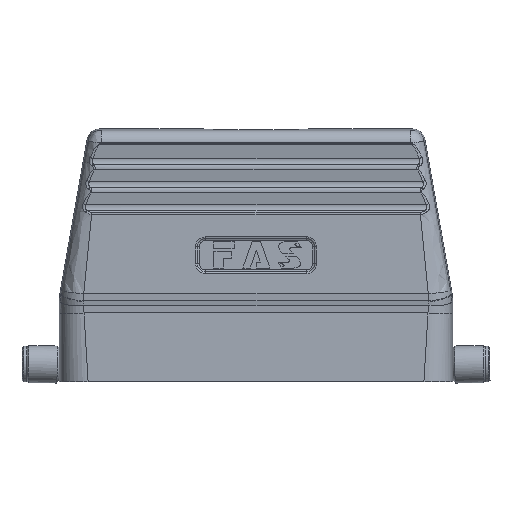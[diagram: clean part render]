
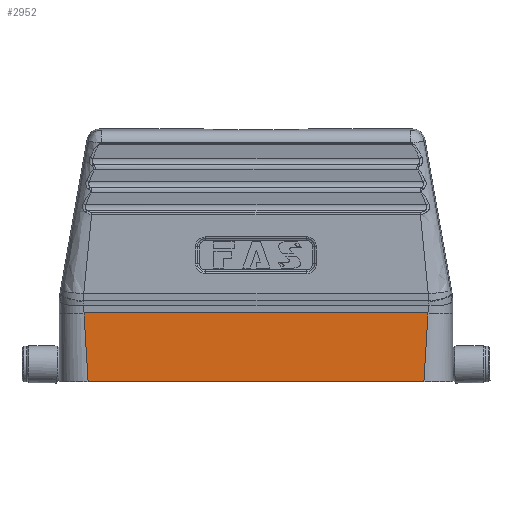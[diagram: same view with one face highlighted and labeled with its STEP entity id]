
A CAD part, front view. The second image highlights one B-rep face of the part: STEP entity #2952.
In plain terms, the highlighted planar face has unit normal (0, -1, 0).
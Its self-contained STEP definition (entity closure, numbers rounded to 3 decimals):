
#410 = EDGE_LOOP ( 'NONE', ( #11961, #11510, #15822, #18694 ) ) ;
#732 = DIRECTION ( 'NONE',  ( 0., -1., 0. ) ) ;
#757 = EDGE_CURVE ( 'NONE', #6247, #10668, #11440, .T. ) ;
#945 = LINE ( 'NONE', #21775, #18964 ) ;
#1133 = CARTESIAN_POINT ( 'NONE',  ( 67.597, 17.399, 69.588 ) ) ;
#1359 = CARTESIAN_POINT ( 'NONE',  ( -13.411, 17.399, 57.422 ) ) ;
#1590 = CARTESIAN_POINT ( 'NONE',  ( -13.708, 17.399, 62.098 ) ) ;
#1751 = CARTESIAN_POINT ( 'NONE',  ( 67.129, 17.399, 60.613 ) ) ;
#1834 = CARTESIAN_POINT ( 'NONE',  ( 67.597, 17.399, 69.588 ) ) ;
#2264 = DIRECTION ( 'NONE',  ( 0., 0., -1. ) ) ;
#2952 = ADVANCED_FACE ( 'NONE', ( #12263 ), #9851, .T. ) ;
#3115 = CARTESIAN_POINT ( 'NONE',  ( 66.764, 17.399, 55.187 ) ) ;
#3119 = CARTESIAN_POINT ( 'NONE',  ( -13.678, 17.399, 61.607 ) ) ;
#3197 = CARTESIAN_POINT ( 'NONE',  ( -13.918, 17.399, 65.796 ) ) ;
#4826 = CARTESIAN_POINT ( 'NONE',  ( -46.498, 17.399, 69.588 ) ) ;
#4935 = CARTESIAN_POINT ( 'NONE',  ( -13.137, 17.399, 53.299 ) ) ;
#4941 = CARTESIAN_POINT ( 'NONE',  ( -13.907, 17.399, 65.594 ) ) ;
#5034 = CARTESIAN_POINT ( 'NONE',  ( -13.409, 17.399, 57.396 ) ) ;
#5258 = CARTESIAN_POINT ( 'NONE',  ( -13.961, 17.399, 66.656 ) ) ;
#5352 = AXIS2_PLACEMENT_3D ( 'NONE', #6003, #732, #2264 ) ;
#6003 = CARTESIAN_POINT ( 'NONE',  ( -46.498, 17.399, 53.299 ) ) ;
#6247 = VERTEX_POINT ( 'NONE', #1133 ) ;
#6938 = CARTESIAN_POINT ( 'NONE',  ( -13.419, 17.399, 57.554 ) ) ;
#7024 = CARTESIAN_POINT ( 'NONE',  ( -13.819, 17.399, 63.96 ) ) ;
#8261 = EDGE_CURVE ( 'NONE', #6247, #18819, #15171, .T. ) ;
#8548 = CARTESIAN_POINT ( 'NONE',  ( -14.094, 17.399, 69.588 ) ) ;
#8778 = CARTESIAN_POINT ( 'NONE',  ( -13.688, 17.399, 61.771 ) ) ;
#9167 = DIRECTION ( 'NONE',  ( 1., 0., 0. ) ) ;
#9851 = PLANE ( 'NONE',  #5352 ) ;
#10503 = CARTESIAN_POINT ( 'NONE',  ( -14.017, 17.399, 67.83 ) ) ;
#10668 = VERTEX_POINT ( 'NONE', #14728 ) ;
#11440 = LINE ( 'NONE', #4826, #20267 ) ;
#11510 = ORIENTED_EDGE ( 'NONE', *, *, #18214, .T. ) ;
#11961 = ORIENTED_EDGE ( 'NONE', *, *, #757, .T. ) ;
#12263 = FACE_OUTER_BOUND ( 'NONE', #410, .T. ) ;
#12334 = CARTESIAN_POINT ( 'NONE',  ( -13.669, 17.399, 61.464 ) ) ;
#12415 = CARTESIAN_POINT ( 'NONE',  ( -13.454, 17.399, 58.094 ) ) ;
#13749 = VERTEX_POINT ( 'NONE', #4935 ) ;
#14097 = CARTESIAN_POINT ( 'NONE',  ( -13.932, 17.399, 66.081 ) ) ;
#14172 = CARTESIAN_POINT ( 'NONE',  ( -13.636, 17.399, 60.932 ) ) ;
#14249 = CARTESIAN_POINT ( 'NONE',  ( -13.673, 17.399, 61.524 ) ) ;
#14324 = CARTESIAN_POINT ( 'NONE',  ( -13.137, 17.399, 53.299 ) ) ;
#14728 = CARTESIAN_POINT ( 'NONE',  ( -14.094, 17.399, 69.588 ) ) ;
#15171 = B_SPLINE_CURVE_WITH_KNOTS ( 'NONE', 3,
 ( #1834, #17670, #1751, #3115, #16395 ),
 .UNSPECIFIED., .F., .F.,
 ( 4, 1, 4 ),
 ( 0., 0.652, 1. ),
 .UNSPECIFIED. ) ;
#15822 = ORIENTED_EDGE ( 'NONE', *, *, #23654, .T. ) ;
#15893 = DIRECTION ( 'NONE',  ( -1., 0., 0. ) ) ;
#15929 = CARTESIAN_POINT ( 'NONE',  ( -13.668, 17.399, 61.453 ) ) ;
#16002 = CARTESIAN_POINT ( 'NONE',  ( -13.905, 17.399, 65.554 ) ) ;
#16395 = CARTESIAN_POINT ( 'NONE',  ( 66.641, 17.399, 53.299 ) ) ;
#17670 = CARTESIAN_POINT ( 'NONE',  ( 67.457, 17.399, 66.043 ) ) ;
#17744 = CARTESIAN_POINT ( 'NONE',  ( -13.499, 17.399, 58.78 ) ) ;
#17823 = CARTESIAN_POINT ( 'NONE',  ( -13.219, 17.399, 54.488 ) ) ;
#17906 = CARTESIAN_POINT ( 'NONE',  ( -13.431, 17.399, 57.736 ) ) ;
#17970 = CARTESIAN_POINT ( 'NONE',  ( -13.91, 17.399, 65.655 ) ) ;
#18044 = CARTESIAN_POINT ( 'NONE',  ( -13.408, 17.399, 57.381 ) ) ;
#18214 = EDGE_CURVE ( 'NONE', #10668, #13749, #18481, .T. ) ;
#18481 = B_SPLINE_CURVE_WITH_KNOTS ( 'NONE', 3,
 ( #8548, #21332, #10503, #5258, #14097, #3197, #17970, #4941, #16002, #23556, #19573, #7024, #21401, #1590, #8778, #3119, #14249, #23240, #12334, #15929, #23329, #14172, #23405, #17744, #12415, #17906, #6938, #19721, #1359, #5034, #18044, #21551, #17823, #14324 ),
 .UNSPECIFIED., .F., .F.,
 ( 4, 1, 1, 1, 1, 1, 2, 2, 1, 1, 1, 1, 1, 1, 1, 2, 2, 1, 1, 1, 1, 1, 1, 2, 2, 4 ),
 ( 0., 0.125, 0.188, 0.219, 0.234, 0.242, 0.246, 0.25, 0.375, 0.438, 0.469, 0.484, 0.492, 0.496, 0.498, 0.499, 0.5, 0.625, 0.688, 0.719, 0.734, 0.742, 0.746, 0.748, 0.75, 1. ),
 .UNSPECIFIED. ) ;
#18694 = ORIENTED_EDGE ( 'NONE', *, *, #8261, .F. ) ;
#18819 = VERTEX_POINT ( 'NONE', #19519 ) ;
#18964 = VECTOR ( 'NONE', #9167, 1000. ) ;
#19519 = CARTESIAN_POINT ( 'NONE',  ( 66.641, 17.399, 53.299 ) ) ;
#19573 = CARTESIAN_POINT ( 'NONE',  ( -13.872, 17.399, 64.917 ) ) ;
#19721 = CARTESIAN_POINT ( 'NONE',  ( -13.413, 17.399, 57.462 ) ) ;
#20267 = VECTOR ( 'NONE', #15893, 1000. ) ;
#21332 = CARTESIAN_POINT ( 'NONE',  ( -14.064, 17.399, 68.874 ) ) ;
#21401 = CARTESIAN_POINT ( 'NONE',  ( -13.747, 17.399, 62.737 ) ) ;
#21551 = CARTESIAN_POINT ( 'NONE',  ( -13.309, 17.399, 55.844 ) ) ;
#21775 = CARTESIAN_POINT ( 'NONE',  ( 13.502, 17.399, 53.299 ) ) ;
#23240 = CARTESIAN_POINT ( 'NONE',  ( -13.67, 17.399, 61.482 ) ) ;
#23329 = CARTESIAN_POINT ( 'NONE',  ( -13.668, 17.399, 61.445 ) ) ;
#23405 = CARTESIAN_POINT ( 'NONE',  ( -13.58, 17.399, 60.042 ) ) ;
#23556 = CARTESIAN_POINT ( 'NONE',  ( -13.904, 17.399, 65.532 ) ) ;
#23654 = EDGE_CURVE ( 'NONE', #13749, #18819, #945, .T. ) ;
